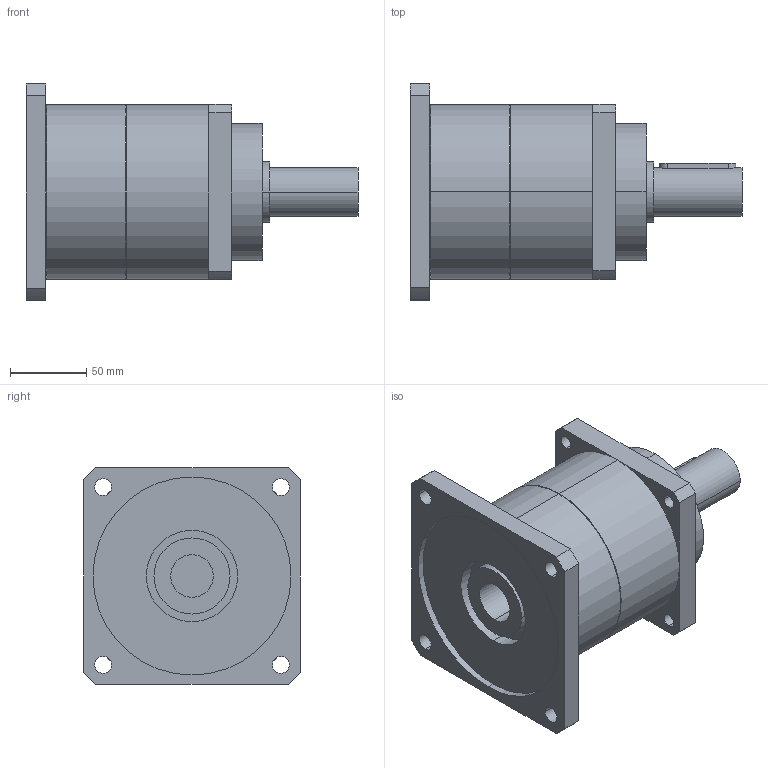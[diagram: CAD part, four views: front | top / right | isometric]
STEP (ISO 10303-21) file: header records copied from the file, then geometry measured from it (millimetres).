
FILE_DESCRIPTION(('CoCreate Modeling STEP Export'),'2;1');
FILE_NAME('GPT120_ig-3-4-5-7-10_32_B5A_28_P08.stp','2015-02-04T17:00:34',(''),(''),'CoCreate Modeling STEP processor for AP214 (Solid Model)','CoCreate Modeling 16.00C 25-Feb-2009 (C) Parametric Technology GmbH','');
FILE_SCHEMA(('AUTOMOTIVE_DESIGN { 1 0 10303 214 1 1 1 1 }'));
Length unit declared in the file: millimetre
Products named in the file (2): GPT120_ig-3-4-5-7-10_32_B5A_28_P08
Assembly tree (1 placements, depth 2):
  GPT120_ig-3-4-5-7-10_32_B5A_28_P08
    GPT120_ig-3-4-5-7-10_32_B5A_28_P08
Bounding box: 218 x 142 x 142 mm (x, y, z)
Volume: 1635120.8 mm3; surface area: 123772.8 mm2
Topology: 1 solids, 1 shells, 77 faces, 204 edges, 139 vertices
Faces by surface type: cylinder 46, plane 27, cone 4
Entity records: 2568 total; most frequent: CARTESIAN_POINT 759, ORIENTED_EDGE 408, DIRECTION 320, EDGE_CURVE 204, VERTEX_POINT 139, AXIS2_PLACEMENT_3D 118, EDGE_LOOP 103, VECTOR 84
